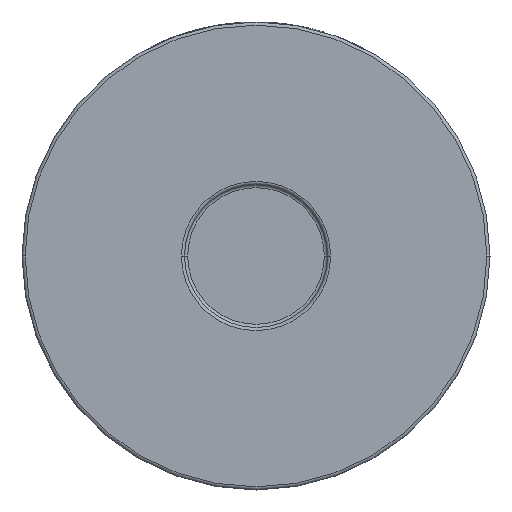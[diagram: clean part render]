
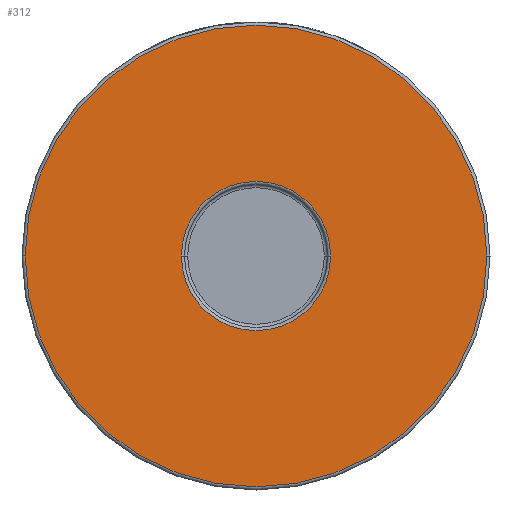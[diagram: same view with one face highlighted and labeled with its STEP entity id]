
A CAD part, front view. The second image highlights one B-rep face of the part: STEP entity #312.
In plain terms, the highlighted planar face has unit normal (0, -1, 0).
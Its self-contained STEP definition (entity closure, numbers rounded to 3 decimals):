
#2 = FACE_OUTER_BOUND ( 'NONE', #4011, .T. ) ;
#175 = DIRECTION ( 'NONE',  ( 0., -1., 0. ) ) ;
#312 = ADVANCED_FACE ( 'NONE', ( #1458, #2 ), #4514, .T. ) ;
#406 = VERTEX_POINT ( 'NONE', #2772 ) ;
#485 = DIRECTION ( 'NONE',  ( 0., 1., 0. ) ) ;
#663 = CIRCLE ( 'NONE', #2338, 73. ) ;
#883 = DIRECTION ( 'NONE',  ( 1., 0., 0. ) ) ;
#1061 = EDGE_CURVE ( 'NONE', #4323, #4538, #663, .T. ) ;
#1458 = FACE_BOUND ( 'NONE', #3881, .T. ) ;
#1483 = DIRECTION ( 'NONE',  ( 0., -1., 0. ) ) ;
#1538 = ORIENTED_EDGE ( 'NONE', *, *, #1963, .T. ) ;
#1576 = CARTESIAN_POINT ( 'NONE',  ( 73., -45., 0. ) ) ;
#1627 = CARTESIAN_POINT ( 'NONE',  ( 0., -45., 0. ) ) ;
#1714 = CIRCLE ( 'NONE', #4258, 73. ) ;
#1745 = EDGE_CURVE ( 'NONE', #4538, #4323, #1714, .T. ) ;
#1818 = CARTESIAN_POINT ( 'NONE',  ( 0., -45., 0. ) ) ;
#1963 = EDGE_CURVE ( 'NONE', #3269, #406, #2333, .T. ) ;
#2333 = CIRCLE ( 'NONE', #2884, 23.6 ) ;
#2338 = AXIS2_PLACEMENT_3D ( 'NONE', #1627, #175, #883 ) ;
#2490 = ORIENTED_EDGE ( 'NONE', *, *, #1745, .T. ) ;
#2576 = DIRECTION ( 'NONE',  ( 1., 0., 0. ) ) ;
#2671 = EDGE_CURVE ( 'NONE', #406, #3269, #3461, .T. ) ;
#2772 = CARTESIAN_POINT ( 'NONE',  ( 23.6, -45., 0. ) ) ;
#2884 = AXIS2_PLACEMENT_3D ( 'NONE', #1818, #2985, #4455 ) ;
#2895 = CARTESIAN_POINT ( 'NONE',  ( -73., -45., 0. ) ) ;
#2985 = DIRECTION ( 'NONE',  ( 0., 1., 0. ) ) ;
#3028 = CARTESIAN_POINT ( 'NONE',  ( 0., -45., 0. ) ) ;
#3269 = VERTEX_POINT ( 'NONE', #3730 ) ;
#3274 = CARTESIAN_POINT ( 'NONE',  ( 74., -45., 0. ) ) ;
#3387 = DIRECTION ( 'NONE',  ( 0., -1., 0. ) ) ;
#3461 = CIRCLE ( 'NONE', #3844, 23.6 ) ;
#3607 = ORIENTED_EDGE ( 'NONE', *, *, #2671, .T. ) ;
#3678 = ORIENTED_EDGE ( 'NONE', *, *, #1061, .T. ) ;
#3730 = CARTESIAN_POINT ( 'NONE',  ( -23.6, -45., 0. ) ) ;
#3760 = AXIS2_PLACEMENT_3D ( 'NONE', #3274, #1483, #2576 ) ;
#3772 = DIRECTION ( 'NONE',  ( 1., 0., 0. ) ) ;
#3844 = AXIS2_PLACEMENT_3D ( 'NONE', #4208, #485, #4524 ) ;
#3881 = EDGE_LOOP ( 'NONE', ( #3607, #1538 ) ) ;
#4011 = EDGE_LOOP ( 'NONE', ( #3678, #2490 ) ) ;
#4208 = CARTESIAN_POINT ( 'NONE',  ( 0., -45., 0. ) ) ;
#4258 = AXIS2_PLACEMENT_3D ( 'NONE', #3028, #3387, #3772 ) ;
#4323 = VERTEX_POINT ( 'NONE', #1576 ) ;
#4455 = DIRECTION ( 'NONE',  ( 1., 0., 0. ) ) ;
#4514 = PLANE ( 'NONE',  #3760 ) ;
#4524 = DIRECTION ( 'NONE',  ( 1., 0., 0. ) ) ;
#4538 = VERTEX_POINT ( 'NONE', #2895 ) ;
